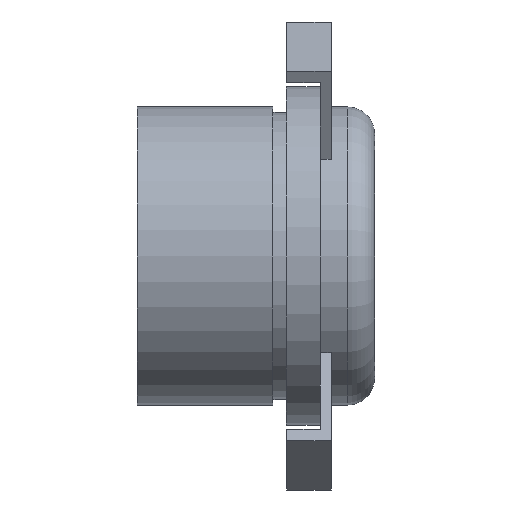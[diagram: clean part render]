
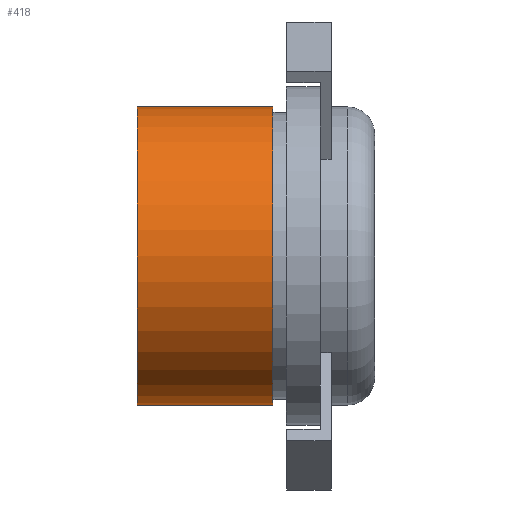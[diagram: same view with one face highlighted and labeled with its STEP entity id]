
A CAD part, left-side view. The second image highlights one B-rep face of the part: STEP entity #418.
In plain terms, the highlighted cylindrical face has radius 22 mm (diameter 44 mm), a partial arc.
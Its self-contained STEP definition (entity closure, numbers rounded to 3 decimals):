
#128 = ORIENTED_EDGE ( 'NONE', *, *, #1117, .T. ) ;
#183 = CARTESIAN_POINT ( 'NONE',  ( 0., 0., -22. ) ) ;
#223 = AXIS2_PLACEMENT_3D ( 'NONE', #1266, #1581, #674 ) ;
#298 = CARTESIAN_POINT ( 'NONE',  ( 0., 22., 22. ) ) ;
#418 = ADVANCED_FACE ( 'NONE', ( #1060 ), #1218, .T. ) ;
#449 = EDGE_CURVE ( 'NONE', #539, #1723, #1589, .T. ) ;
#463 = ORIENTED_EDGE ( 'NONE', *, *, #449, .F. ) ;
#504 = DIRECTION ( 'NONE',  ( 0., -1., 0. ) ) ;
#539 = VERTEX_POINT ( 'NONE', #1861 ) ;
#542 = EDGE_LOOP ( 'NONE', ( #1974, #128, #929, #463 ) ) ;
#572 = DIRECTION ( 'NONE',  ( 0., -1., 0. ) ) ;
#599 = VECTOR ( 'NONE', #1670, 1000. ) ;
#610 = LINE ( 'NONE', #183, #1646 ) ;
#674 = DIRECTION ( 'NONE',  ( 0., 0., -1. ) ) ;
#761 = DIRECTION ( 'NONE',  ( 0., -1., 0. ) ) ;
#771 = EDGE_CURVE ( 'NONE', #2012, #1723, #610, .T. ) ;
#929 = ORIENTED_EDGE ( 'NONE', *, *, #771, .T. ) ;
#998 = CARTESIAN_POINT ( 'NONE',  ( 0., 2., -22. ) ) ;
#1007 = VERTEX_POINT ( 'NONE', #298 ) ;
#1028 = CARTESIAN_POINT ( 'NONE',  ( 0., 22., -22. ) ) ;
#1060 = FACE_OUTER_BOUND ( 'NONE', #542, .T. ) ;
#1065 = LINE ( 'NONE', #1987, #599 ) ;
#1117 = EDGE_CURVE ( 'NONE', #1007, #2012, #1519, .T. ) ;
#1218 = CYLINDRICAL_SURFACE ( 'NONE', #1696, 22. ) ;
#1266 = CARTESIAN_POINT ( 'NONE',  ( 0., 22., 0. ) ) ;
#1309 = EDGE_CURVE ( 'NONE', #1007, #539, #1065, .T. ) ;
#1325 = CARTESIAN_POINT ( 'NONE',  ( 0., 0., 0. ) ) ;
#1515 = DIRECTION ( 'NONE',  ( 0., 0., -1. ) ) ;
#1519 = CIRCLE ( 'NONE', #223, 22. ) ;
#1528 = AXIS2_PLACEMENT_3D ( 'NONE', #1983, #761, #1515 ) ;
#1581 = DIRECTION ( 'NONE',  ( 0., -1., 0. ) ) ;
#1589 = CIRCLE ( 'NONE', #1528, 22. ) ;
#1636 = DIRECTION ( 'NONE',  ( 0., 0., -1. ) ) ;
#1646 = VECTOR ( 'NONE', #504, 1000. ) ;
#1670 = DIRECTION ( 'NONE',  ( 0., -1., 0. ) ) ;
#1696 = AXIS2_PLACEMENT_3D ( 'NONE', #1325, #572, #1636 ) ;
#1723 = VERTEX_POINT ( 'NONE', #998 ) ;
#1861 = CARTESIAN_POINT ( 'NONE',  ( 0., 2., 22. ) ) ;
#1974 = ORIENTED_EDGE ( 'NONE', *, *, #1309, .F. ) ;
#1983 = CARTESIAN_POINT ( 'NONE',  ( 0., 2., 0. ) ) ;
#1987 = CARTESIAN_POINT ( 'NONE',  ( 0., 0., 22. ) ) ;
#2012 = VERTEX_POINT ( 'NONE', #1028 ) ;
